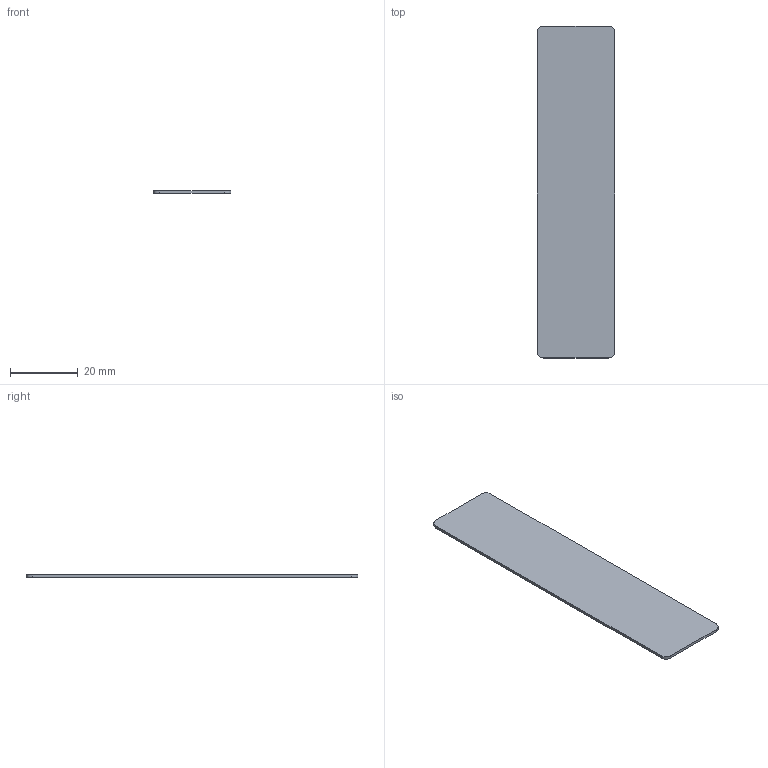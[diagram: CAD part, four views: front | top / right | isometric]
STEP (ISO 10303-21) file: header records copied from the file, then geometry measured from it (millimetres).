
FILE_DESCRIPTION(('Open CASCADE Model'),'2;1');
FILE_NAME('Open CASCADE Shape Model','2026-09-04T14:05:02',('Author'),( 'Open CASCADE'),'Open CASCADE STEP processor 7.7','Open CASCADE 7.7' ,'Unknown');
FILE_SCHEMA(('AUTOMOTIVE_DESIGN { 1 0 10303 214 1 1 1 1 }'));
Length unit declared in the file: millimetre
Products named in the file (1): Open CASCADE STEP translator 7.7 27
Bounding box: 23 x 98 x 0.8 mm (x, y, z)
Volume: 1800.5 mm3; surface area: 4692 mm2
Topology: 1 solids, 1 shells, 10 faces, 24 edges, 16 vertices
Faces by surface type: plane 6, cylinder 4
Entity records: 630 total; most frequent: CARTESIAN_POINT 123, DIRECTION 98, LINE 56, VECTOR 56, ORIENTED_EDGE 48, PCURVE 48, DEFINITIONAL_REPRESENTATION 48, EDGE_CURVE 24
